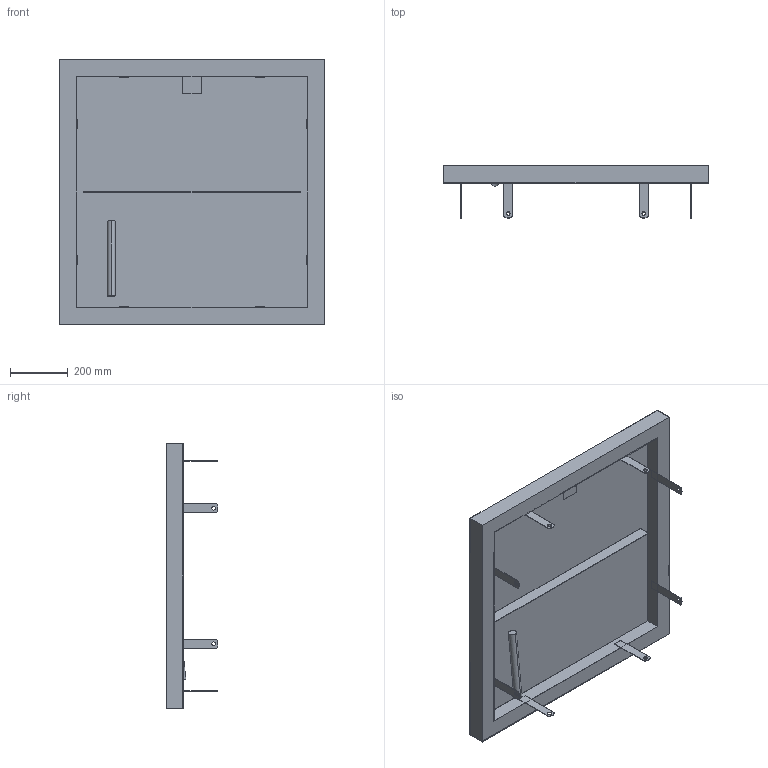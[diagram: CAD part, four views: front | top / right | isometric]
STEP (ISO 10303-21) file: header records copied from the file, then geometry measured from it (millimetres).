
FILE_DESCRIPTION((''),'2;1');
FILE_NAME('51630909','2021-05-19T16:20:54',('gm'),('HUBER SE'),'CREO PARAMETRIC BY PTC INC, 2019224','CREO PARAMETRIC BY PTC INC, 2019224','');
FILE_SCHEMA(('AUTOMOTIVE_DESIGN { 1 0 10303 214 1 1 1 1 }'));
Length unit declared in the file: millimetre
Products named in the file (1): 51630909
Bounding box: 920 x 180 x 920 mm (x, y, z)
Surface area: 3142312.8 mm2 (no closed solid volume)
Topology: 0 solids, 4 shells, 120 faces, 306 edges, 198 vertices
Faces by surface type: plane 89, cylinder 31
Entity records: 4089 total; most frequent: CARTESIAN_POINT 624, DIRECTION 610, ORIENTED_EDGE 608, EDGE_CURVE 306, VECTOR 242, LINE 242, VERTEX_POINT 198, AXIS2_PLACEMENT_3D 184
